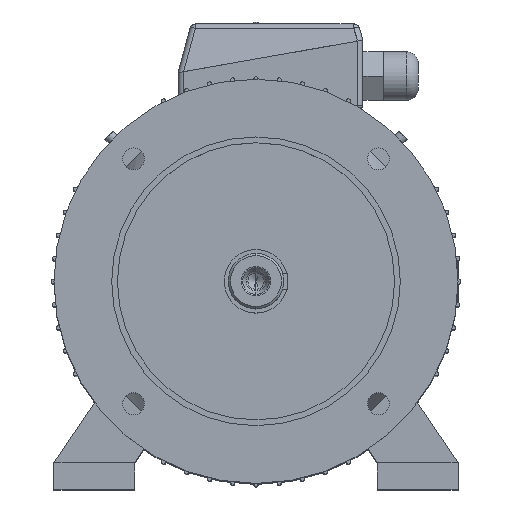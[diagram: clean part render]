
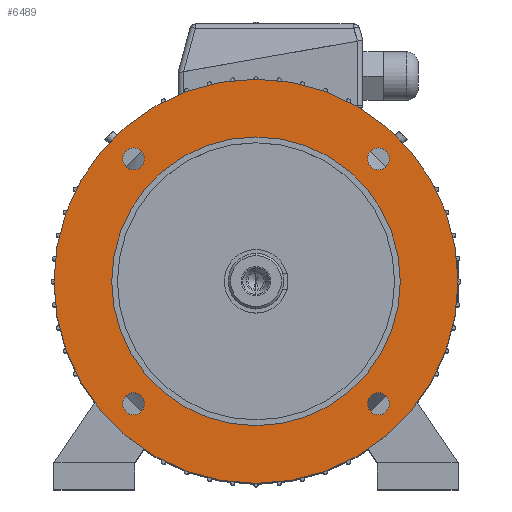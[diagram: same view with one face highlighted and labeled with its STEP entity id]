
A CAD part, top view. The second image highlights one B-rep face of the part: STEP entity #6489.
In plain terms, the highlighted planar face has unit normal (0, 0, 1).
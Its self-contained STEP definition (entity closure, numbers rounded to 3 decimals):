
#241 = CARTESIAN_POINT ( 'NONE',  ( -96.566, -106.066, 81. ) ) ;
#350 = VERTEX_POINT ( 'NONE', #11867 ) ;
#364 = CIRCLE ( 'NONE', #365, 9.5 ) ;
#365 = AXIS2_PLACEMENT_3D ( 'NONE', #366, #367, #368 ) ;
#366 = CARTESIAN_POINT ( 'NONE',  ( -106.066, -106.066, 81. ) ) ;
#367 = DIRECTION ( 'NONE',  ( 0., 0., 1. ) ) ;
#368 = DIRECTION ( 'NONE',  ( 1., 0., 0. ) ) ;
#644 = CARTESIAN_POINT ( 'NONE',  ( 175., 0., 81. ) ) ;
#779 = CIRCLE ( 'NONE', #780, 9.5 ) ;
#780 = AXIS2_PLACEMENT_3D ( 'NONE', #781, #782, #783 ) ;
#781 = CARTESIAN_POINT ( 'NONE',  ( 106.066, 106.066, 81. ) ) ;
#782 = DIRECTION ( 'NONE',  ( 0., 0., 1. ) ) ;
#783 = DIRECTION ( 'NONE',  ( 1., 0., 0. ) ) ;
#806 = CARTESIAN_POINT ( 'NONE',  ( -115.566, -106.066, 81. ) ) ;
#1498 = FACE_BOUND ( 'NONE', #6228, .T. ) ;
#1499 = FACE_BOUND ( 'NONE', #4361, .T. ) ;
#1504 = FACE_BOUND ( 'NONE', #10190, .T. ) ;
#1505 = FACE_OUTER_BOUND ( 'NONE', #9692, .T. ) ;
#1506 = FACE_BOUND ( 'NONE', #9209, .T. ) ;
#1507 = FACE_BOUND ( 'NONE', #11316, .T. ) ;
#1508 = PLANE ( 'NONE',  #1509 ) ;
#1509 = AXIS2_PLACEMENT_3D ( 'NONE', #1510, #1511, #1512 ) ;
#1510 = CARTESIAN_POINT ( 'NONE',  ( 0., 175., 81. ) ) ;
#1511 = DIRECTION ( 'NONE',  ( 0., 0., -1. ) ) ;
#1512 = DIRECTION ( 'NONE',  ( -1., 0., 0. ) ) ;
#2942 = CIRCLE ( 'NONE', #2943, 175. ) ;
#2943 = AXIS2_PLACEMENT_3D ( 'NONE', #2944, #2945, #2946 ) ;
#2944 = CARTESIAN_POINT ( 'NONE',  ( 0., 0., 81. ) ) ;
#2945 = DIRECTION ( 'NONE',  ( 0., 0., 1. ) ) ;
#2946 = DIRECTION ( 'NONE',  ( 1., 0., 0. ) ) ;
#3748 = ORIENTED_EDGE ( 'NONE', *, *, #10396, .F. ) ;
#3805 = CARTESIAN_POINT ( 'NONE',  ( -96.566, 106.066, 81. ) ) ;
#3948 = CIRCLE ( 'NONE', #3949, 9.5 ) ;
#3949 = AXIS2_PLACEMENT_3D ( 'NONE', #3950, #3951, #3952 ) ;
#3950 = CARTESIAN_POINT ( 'NONE',  ( -106.066, 106.066, 81. ) ) ;
#3951 = DIRECTION ( 'NONE',  ( 0., 0., 1. ) ) ;
#3952 = DIRECTION ( 'NONE',  ( 1., 0., 0. ) ) ;
#4051 = VERTEX_POINT ( 'NONE', #241 ) ;
#4145 = CIRCLE ( 'NONE', #4146, 125. ) ;
#4146 = AXIS2_PLACEMENT_3D ( 'NONE', #4147, #4148, #4149 ) ;
#4147 = CARTESIAN_POINT ( 'NONE',  ( 0., 0., 81. ) ) ;
#4148 = DIRECTION ( 'NONE',  ( 0., 0., 1. ) ) ;
#4149 = DIRECTION ( 'NONE',  ( 1., 0., 0. ) ) ;
#4293 = EDGE_CURVE ( 'NONE', #5301, #4051, #364, .T. ) ;
#4361 = EDGE_LOOP ( 'NONE', ( #3748, #10250 ) ) ;
#4545 = CARTESIAN_POINT ( 'NONE',  ( -115.566, 106.066, 81. ) ) ;
#4614 = CARTESIAN_POINT ( 'NONE',  ( -125., 0., 81. ) ) ;
#4643 = ORIENTED_EDGE ( 'NONE', *, *, #10821, .F. ) ;
#4735 = CARTESIAN_POINT ( 'NONE',  ( 125., 0., 81. ) ) ;
#4827 = CIRCLE ( 'NONE', #4828, 125. ) ;
#4828 = AXIS2_PLACEMENT_3D ( 'NONE', #4829, #4830, #4831 ) ;
#4829 = CARTESIAN_POINT ( 'NONE',  ( 0., 0., 81. ) ) ;
#4830 = DIRECTION ( 'NONE',  ( 0., 0., 1. ) ) ;
#4831 = DIRECTION ( 'NONE',  ( 1., 0., 0. ) ) ;
#4861 = VERTEX_POINT ( 'NONE', #644 ) ;
#5216 = EDGE_CURVE ( 'NONE', #10759, #11054, #779, .T. ) ;
#5301 = VERTEX_POINT ( 'NONE', #806 ) ;
#5634 = CIRCLE ( 'NONE', #5635, 9.5 ) ;
#5635 = AXIS2_PLACEMENT_3D ( 'NONE', #5641, #5642, #5643 ) ;
#5640 = ORIENTED_EDGE ( 'NONE', *, *, #5216, .F. ) ;
#5641 = CARTESIAN_POINT ( 'NONE',  ( -106.066, -106.066, 81. ) ) ;
#5642 = DIRECTION ( 'NONE',  ( 0., 0., 1. ) ) ;
#5643 = DIRECTION ( 'NONE',  ( 1., 0., 0. ) ) ;
#5860 = CIRCLE ( 'NONE', #5861, 175. ) ;
#5861 = AXIS2_PLACEMENT_3D ( 'NONE', #5862, #5863, #5864 ) ;
#5862 = CARTESIAN_POINT ( 'NONE',  ( 0., 0., 81. ) ) ;
#5863 = DIRECTION ( 'NONE',  ( 0., 0., 1. ) ) ;
#5864 = DIRECTION ( 'NONE',  ( 1., 0., 0. ) ) ;
#6228 = EDGE_LOOP ( 'NONE', ( #5640, #4643 ) ) ;
#6391 = CARTESIAN_POINT ( 'NONE',  ( -175., 0., 81. ) ) ;
#6430 = CARTESIAN_POINT ( 'NONE',  ( 115.566, 106.066, 81. ) ) ;
#6489 = ADVANCED_FACE ( 'NONE', ( #1498, #1499, #1504, #1505, #1506, #1507 ), #1508, .F. ) ;
#6601 = CIRCLE ( 'NONE', #6602, 9.5 ) ;
#6602 = AXIS2_PLACEMENT_3D ( 'NONE', #6603, #6604, #6605 ) ;
#6603 = CARTESIAN_POINT ( 'NONE',  ( 106.066, 106.066, 81. ) ) ;
#6604 = DIRECTION ( 'NONE',  ( 0., 0., 1. ) ) ;
#6605 = DIRECTION ( 'NONE',  ( 1., 0., 0. ) ) ;
#7087 = CARTESIAN_POINT ( 'NONE',  ( 96.566, 106.066, 81. ) ) ;
#7163 = CIRCLE ( 'NONE', #7164, 9.5 ) ;
#7164 = AXIS2_PLACEMENT_3D ( 'NONE', #7165, #7166, #7171 ) ;
#7165 = CARTESIAN_POINT ( 'NONE',  ( -106.066, 106.066, 81. ) ) ;
#7166 = DIRECTION ( 'NONE',  ( 0., 0., 1. ) ) ;
#7171 = DIRECTION ( 'NONE',  ( 1., 0., 0. ) ) ;
#8106 = CIRCLE ( 'NONE', #8107, 9.5 ) ;
#8107 = AXIS2_PLACEMENT_3D ( 'NONE', #8110, #8111, #8112 ) ;
#8110 = CARTESIAN_POINT ( 'NONE',  ( 106.066, -106.066, 81. ) ) ;
#8111 = DIRECTION ( 'NONE',  ( 0., 0., 1. ) ) ;
#8112 = DIRECTION ( 'NONE',  ( 1., 0., 0. ) ) ;
#8933 = CARTESIAN_POINT ( 'NONE',  ( 115.566, -106.066, 81. ) ) ;
#9072 = CIRCLE ( 'NONE', #9073, 9.5 ) ;
#9073 = AXIS2_PLACEMENT_3D ( 'NONE', #9074, #9075, #9076 ) ;
#9074 = CARTESIAN_POINT ( 'NONE',  ( 106.066, -106.066, 81. ) ) ;
#9075 = DIRECTION ( 'NONE',  ( 0., 0., 1. ) ) ;
#9076 = DIRECTION ( 'NONE',  ( 1., 0., 0. ) ) ;
#9209 = EDGE_LOOP ( 'NONE', ( #11633, #11394 ) ) ;
#9313 = EDGE_CURVE ( 'NONE', #10729, #4861, #2942, .T. ) ;
#9411 = ORIENTED_EDGE ( 'NONE', *, *, #9313, .T. ) ;
#9562 = ORIENTED_EDGE ( 'NONE', *, *, #10505, .T. ) ;
#9599 = VERTEX_POINT ( 'NONE', #3805 ) ;
#9662 = EDGE_CURVE ( 'NONE', #9907, #9599, #3948, .T. ) ;
#9692 = EDGE_LOOP ( 'NONE', ( #9562, #9411 ) ) ;
#9761 = EDGE_CURVE ( 'NONE', #9920, #9974, #4145, .T. ) ;
#9867 = ORIENTED_EDGE ( 'NONE', *, *, #9761, .F. ) ;
#9907 = VERTEX_POINT ( 'NONE', #4545 ) ;
#9920 = VERTEX_POINT ( 'NONE', #4614 ) ;
#9974 = VERTEX_POINT ( 'NONE', #4735 ) ;
#9993 = ORIENTED_EDGE ( 'NONE', *, *, #10030, .F. ) ;
#10030 = EDGE_CURVE ( 'NONE', #9974, #9920, #4827, .T. ) ;
#10190 = EDGE_LOOP ( 'NONE', ( #9993, #9867 ) ) ;
#10250 = ORIENTED_EDGE ( 'NONE', *, *, #4293, .F. ) ;
#10396 = EDGE_CURVE ( 'NONE', #4051, #5301, #5634, .T. ) ;
#10505 = EDGE_CURVE ( 'NONE', #4861, #10729, #5860, .T. ) ;
#10729 = VERTEX_POINT ( 'NONE', #6391 ) ;
#10759 = VERTEX_POINT ( 'NONE', #6430 ) ;
#10821 = EDGE_CURVE ( 'NONE', #11054, #10759, #6601, .T. ) ;
#10968 = ORIENTED_EDGE ( 'NONE', *, *, #9662, .F. ) ;
#11054 = VERTEX_POINT ( 'NONE', #7087 ) ;
#11092 = EDGE_CURVE ( 'NONE', #9599, #9907, #7163, .T. ) ;
#11189 = ORIENTED_EDGE ( 'NONE', *, *, #11092, .F. ) ;
#11316 = EDGE_LOOP ( 'NONE', ( #11189, #10968 ) ) ;
#11394 = ORIENTED_EDGE ( 'NONE', *, *, #12911, .F. ) ;
#11526 = EDGE_CURVE ( 'NONE', #12660, #350, #8106, .T. ) ;
#11633 = ORIENTED_EDGE ( 'NONE', *, *, #11526, .F. ) ;
#11867 = CARTESIAN_POINT ( 'NONE',  ( 96.566, -106.066, 81. ) ) ;
#12660 = VERTEX_POINT ( 'NONE', #8933 ) ;
#12911 = EDGE_CURVE ( 'NONE', #350, #12660, #9072, .T. ) ;
